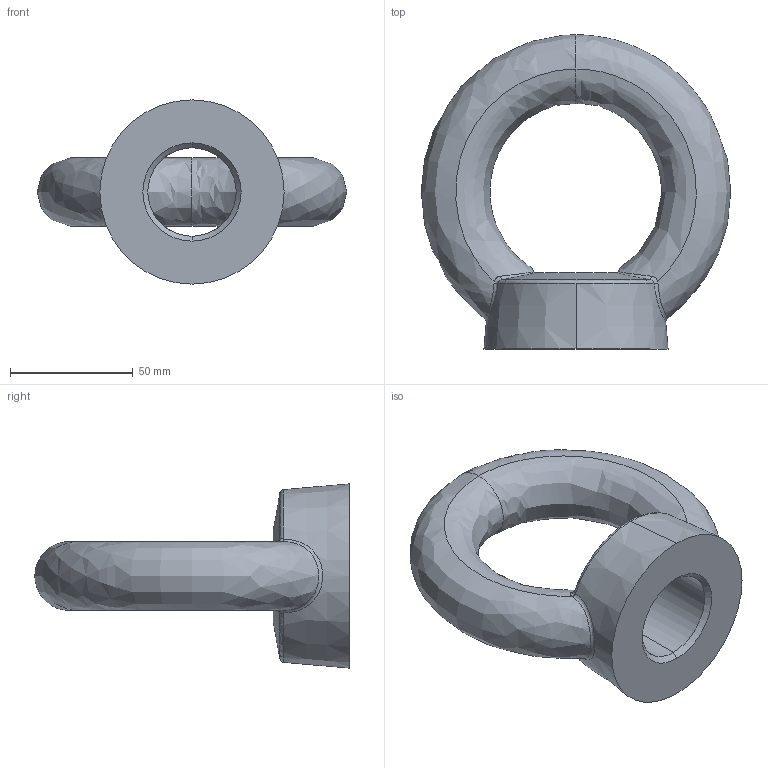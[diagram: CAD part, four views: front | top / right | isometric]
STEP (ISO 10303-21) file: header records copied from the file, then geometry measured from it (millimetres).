
FILE_DESCRIPTION (( 'STEP AP203' ), '1' );
FILE_NAME ('P4041.360-030-ZP.step', '2023-04-16T08:04:18', ( '' ), ( '' ), 'SwSTEP 2.0', 'SolidWorks 2019', '' );
FILE_SCHEMA (( 'CONFIG_CONTROL_DESIGN' ));
Length unit declared in the file: millimetre
Products named in the file (1): P4041.360-030-ZP
Bounding box: 126 x 128 x 75 mm (x, y, z)
Volume: 241289.5 mm3; surface area: 36410 mm2
Topology: 1 solids, 1 shells, 27 faces, 69 edges, 41 vertices
Faces by surface type: bspline 14, cone 7, torus 3, cylinder 2, plane 1
Entity records: 3334 total; most frequent: CARTESIAN_POINT 2708, ORIENTED_EDGE 138, DIRECTION 87, EDGE_CURVE 69, VERTEX_POINT 41, AXIS2_PLACEMENT_3D 40, B_SPLINE_CURVE_WITH_KNOTS 34, EDGE_LOOP 28
